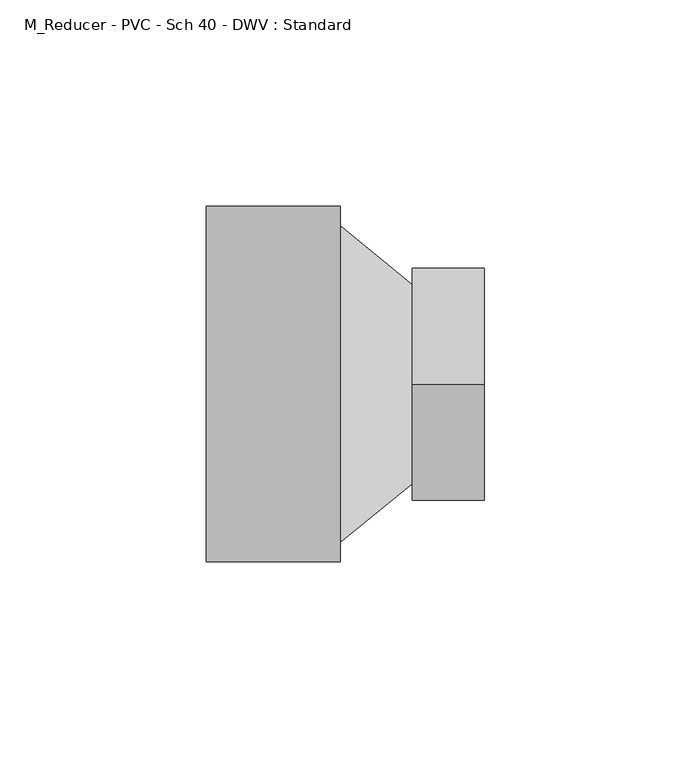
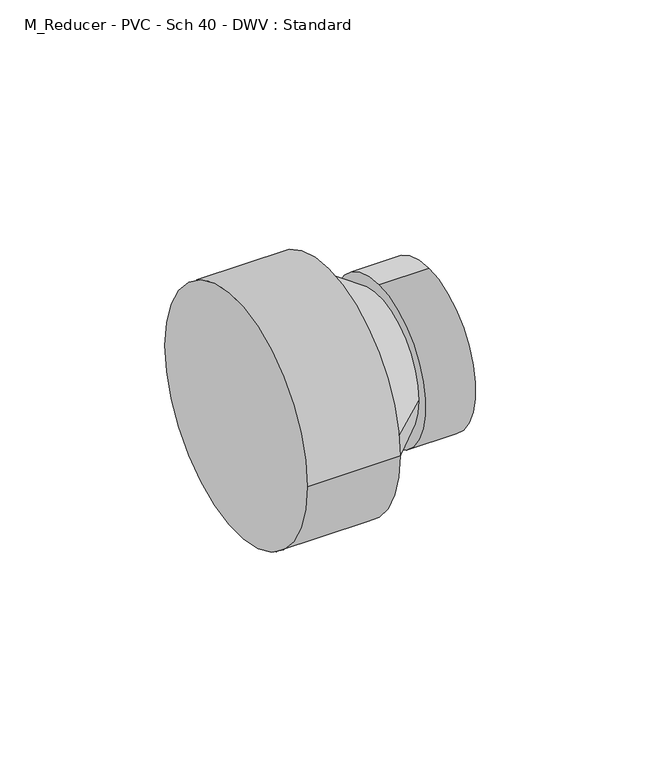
"""IFC4 building model written with IfcOpenShell, lengths in millimetres: pipe fitting geometry, M_Reducer - PVC - Sch 40 - DWV : Standard."""

import ifcopenshell
import ifcopenshell.guid

model = None  # the IFC model being written
_history = None  # IfcOwnerHistory: only IFC2X3 demands one
_inside = {}  # id of a spatial element -> (the spatial element, [elements in it])
_under = {}  # id of a project, library or spatial element -> (it, [spatial elements below it])
_declared = {}  # id of a project -> (the project, [libraries it declares])
_typed = {}  # id of a type object -> (the type object, [elements of that type])
_made_of = {}  # id of a material, layer set ... -> (it, [elements and type objects made of it])


def new_model(schema):
    """Start an empty IFC model of exactly this schema.

    Asked for "IFC4X3", IfcOpenShell would pick the latest addendum, in which some entities
    have other attributes; the version numbers below select the first issue.
    IFC2X3 requires an IfcOwnerHistory on every rooted entity: one is made here for all.
    """
    global model, _history
    if schema == "IFC4X3":
        model = ifcopenshell.file(schema_version=(4, 3, 0, 0))
    else:
        model = ifcopenshell.file(schema=schema)
    _inside.clear()
    _under.clear()
    _declared.clear()
    _typed.clear()
    _made_of.clear()
    _history = None
    if model.schema == "IFC2X3":
        org = make("IfcOrganization", Name="unknown")
        user = make(
            "IfcPersonAndOrganization",
            ThePerson=make("IfcPerson", FamilyName="unknown"),
            TheOrganization=org,
        )
        app = make(
            "IfcApplication",
            ApplicationDeveloper=org,
            Version="unknown",
            ApplicationFullName="unknown",
            ApplicationIdentifier="unknown",
        )
        _history = make(
            "IfcOwnerHistory",
            OwningUser=user,
            OwningApplication=app,
            ChangeAction="ADDED",
            CreationDate=0,
        )
    return model


def make(cls, **values):
    """One entity of the class cls with the attributes given. An attribute that is None is left unset."""
    return model.create_entity(
        cls, **{name: value for name, value in values.items() if value is not None}
    )


def rooted(cls, **values):
    """An entity with a GlobalId (a new one), such as an element, a storey or a relation."""
    return make(cls, GlobalId=ifcopenshell.guid.new(), OwnerHistory=_history, **values)


def si_unit(unit_type, name, prefix=None):
    """IfcSIUnit, for example si_unit("LENGTHUNIT", "METRE", prefix="MILLI")."""
    return make("IfcSIUnit", UnitType=unit_type, Prefix=prefix, Name=name)


def assignment(units):
    """IfcUnitAssignment: the units of a project."""
    return None if units is None else make("IfcUnitAssignment", Units=units)


def point(xyz):
    """IfcCartesianPoint."""
    return None if xyz is None else make("IfcCartesianPoint", Coordinates=xyz)


def direction(xyz):
    """IfcDirection."""
    return None if xyz is None else make("IfcDirection", DirectionRatios=xyz)


def frame(location, z_axis=None, x_axis=None):
    """IfcAxis2Placement3D, a coordinate frame: its origin and axes. An axis left out is left unset."""
    return make(
        "IfcAxis2Placement3D",
        Location=point(location),
        Axis=direction(z_axis),
        RefDirection=direction(x_axis),
    )


def origin():
    """The frame at (0, 0, 0) with its axes left unset."""
    return frame((0.0, 0.0, 0.0))


def place(relative_to, where):
    """IfcLocalPlacement: puts the frame where relative to a parent placement (None: the world)."""
    return make(
        "IfcLocalPlacement", PlacementRelTo=relative_to, RelativePlacement=where
    )


def context(
    kind, dimensions, precision=None, world=None, true_north=None, identifier=None
):
    """IfcGeometricRepresentationContext, for example the 3D "Model" context."""
    return make(
        "IfcGeometricRepresentationContext",
        ContextIdentifier=identifier,
        ContextType=kind,
        CoordinateSpaceDimension=dimensions,
        Precision=precision,
        WorldCoordinateSystem=world,
        TrueNorth=true_north,
    )


def project(units=None, contexts=None):
    """IfcProject with its units and contexts."""
    return rooted(
        "IfcProject",
        Name="project",
        RepresentationContexts=contexts,
        UnitsInContext=assignment(units),
    )


def spatial(cls, under=None, at=None, **own):
    """A site, building, storey or space (cls), placed at a placement, below another one or the project."""
    s = rooted(cls, ObjectPlacement=at, **own)
    if under is not None:
        _under.setdefault(under.id(), (under, []))[1].append(s)
    return s


def circle_curve(where, radius):
    """IfcCircle in the frame where."""
    return make("IfcCircle", Position=where, Radius=radius)


def shape(context_of_items, identifier, shape_type, items):
    """IfcShapeRepresentation: the items that make up one representation, for example the "Body"."""
    return make(
        "IfcShapeRepresentation",
        ContextOfItems=context_of_items,
        RepresentationIdentifier=identifier,
        RepresentationType=shape_type,
        Items=items,
    )


def source(mapping_origin, context_of_items, identifier, shape_type, items):
    """IfcRepresentationMap: a shape defined once, which mapped items show again and again."""
    return make(
        "IfcRepresentationMap",
        MappingOrigin=mapping_origin,
        MappedRepresentation=shape(context_of_items, identifier, shape_type, items),
    )


def transform(
    local_origin,
    x_axis=None,
    y_axis=None,
    z_axis=None,
    scale=None,
    scale2=None,
    scale3=None,
    uniform=True,
):
    """IfcCartesianTransformationOperator3D, or its non-uniform kind. x_axis, y_axis, z_axis: its Axis1, 2, 3."""
    if uniform:
        return make(
            "IfcCartesianTransformationOperator3D",
            Axis1=direction(x_axis),
            Axis2=direction(y_axis),
            LocalOrigin=point(local_origin),
            Scale=scale,
            Axis3=direction(z_axis),
        )
    return make(
        "IfcCartesianTransformationOperator3DnonUniform",
        Axis1=direction(x_axis),
        Axis2=direction(y_axis),
        LocalOrigin=point(local_origin),
        Scale=scale,
        Axis3=direction(z_axis),
        Scale2=scale2,
        Scale3=scale3,
    )


def mapped(mapping_source, mapping_target):
    """IfcMappedItem: shows the shape of a source again, moved by a transform."""
    return make(
        "IfcMappedItem", MappingSource=mapping_source, MappingTarget=mapping_target
    )


def made_of(thing, what):
    """Note that an element or type object is made of a material, layer set ...; save() writes the relation."""
    if what is not None:
        _made_of.setdefault(what.id(), (what, []))[1].append(thing)
    return thing


def element(
    cls,
    number,
    at=None,
    inside=None,
    cuts=None,
    type_object=None,
    material=None,
    context=None,
    identifier="Body",
    shape_type=None,
    held_by="IfcProductDefinitionShape",
    body=None,
    shapes=None,
    **own,
):
    """One element of the class cls, such as IfcWall. Its Tag is "e" and its number.

    at: its placement. inside: the storey or other place that contains it. cuts: it is an
    opening in that element (IfcRelVoidsElement). A single representation is given by context,
    identifier, shape_type and body (its items); several are given by shapes. held_by: the class
    of the entity that holds the representations. save() writes the other relations.
    """
    e = rooted(cls, Tag="e%d" % number, ObjectPlacement=at, **own)
    if body is not None:
        shapes = [shape(context, identifier, shape_type, body)]
    if shapes is not None:
        e.Representation = make(held_by, Representations=shapes)
    if inside is not None:
        _inside.setdefault(inside.id(), (inside, []))[1].append(e)
    if cuts is not None:
        rooted(
            "IfcRelVoidsElement", RelatingBuildingElement=cuts, RelatedOpeningElement=e
        )
    if type_object is not None:
        _typed.setdefault(type_object.id(), (type_object, []))[1].append(e)
    return made_of(e, material)


def aggregate(whole, parts):
    """IfcRelAggregates: a whole, such as a stair, and the parts it consists of."""
    return rooted("IfcRelAggregates", RelatingObject=whole, RelatedObjects=parts)


def save(model, path):
    """Write the relations noted so far, then the file.

    IfcRelAggregates (storeys below a building ...), IfcRelContainedInSpatialStructure (elements
    in a storey), IfcRelDefinesByType, IfcRelAssociatesMaterial and IfcRelDeclares: one each for
    every whole, place, type object, material and project.
    """
    for whole, parts in _under.values():
        aggregate(whole, parts)
    for where, things in _inside.values():
        rooted(
            "IfcRelContainedInSpatialStructure",
            RelatedElements=things,
            RelatingStructure=where,
        )
    for kind, things in _typed.values():
        rooted("IfcRelDefinesByType", RelatedObjects=things, RelatingType=kind)
    for what, things in _made_of.values():
        rooted("IfcRelAssociatesMaterial", RelatedObjects=things, RelatingMaterial=what)
    for by, libraries in _declared.values():
        rooted("IfcRelDeclares", RelatingContext=by, RelatedDefinitions=libraries)
    model.write(path)


def plane_surface(at):
    """IfcPlane: the flat surface through the origin of the frame at, square to its z axis."""
    return make("IfcPlane", Position=at)


def cylinder_surface(at, radius):
    """IfcCylindricalSurface: all points at the distance radius from the z axis of the frame at."""
    return make("IfcCylindricalSurface", Position=at, Radius=radius)


def spline_surface(u_degree, v_degree, points, u_multiplicities, v_multiplicities, u_knots, v_knots, weights=None):
    """IfcBSplineSurfaceWithKnots; with weights, IfcRationalBSplineSurfaceWithKnots. points: one row for each step in u."""
    own = dict(
        UDegree=u_degree,
        VDegree=v_degree,
        ControlPointsList=[[point(p) for p in row] for row in points],
        SurfaceForm="UNSPECIFIED",
        UClosed=False,
        VClosed=False,
        SelfIntersect=False,
        UMultiplicities=u_multiplicities,
        VMultiplicities=v_multiplicities,
        UKnots=u_knots,
        VKnots=v_knots,
        KnotSpec="UNSPECIFIED",
    )
    if weights is None:
        return make("IfcBSplineSurfaceWithKnots", **own)
    return make("IfcRationalBSplineSurfaceWithKnots", WeightsData=weights, **own)


def advanced_brep(points, edges, surfaces, faces):
    """IfcAdvancedBrep: a solid bounded by faces that lie on surfaces and meet in shared edges.

    An edge is (start, end): straight between two places in points (the first is 0);
    or (start, end, curve); or (start, end, curve, False) where it runs against its curve.
    A face is (place in surfaces, loops), or (place, loops, False) where it looks against
    its surface's normal. A loop lists edges by number (the first is 1), with a minus sign
    where the edge is run from its end to its start. The first loop is the outer one.
    """
    corners = [point(p) for p in points]
    vertices = [make("IfcVertexPoint", VertexGeometry=c) for c in corners]
    made = []
    for start, end, *more in edges:
        made.append(
            make(
                "IfcEdgeCurve",
                EdgeStart=vertices[start],
                EdgeEnd=vertices[end],
                EdgeGeometry=more[0] if more else make("IfcPolyline", Points=[corners[start], corners[end]]),
                SameSense=more[1] if len(more) > 1 else True,
            )
        )
    hull = []
    for where, loops, *sense in faces:
        bounds = []
        for j, loop in enumerate(loops):
            ring = [make("IfcOrientedEdge", EdgeElement=made[abs(k) - 1], Orientation=k > 0) for k in loop]
            bounds.append(
                make(
                    "IfcFaceOuterBound" if j == 0 else "IfcFaceBound",
                    Bound=make("IfcEdgeLoop", EdgeList=ring),
                    Orientation=True,
                )
            )
        hull.append(make("IfcAdvancedFace", Bounds=bounds, FaceSurface=surfaces[where], SameSense=sense[0] if sense else True))
    return make("IfcAdvancedBrep", Outer=make("IfcClosedShell", CfsFaces=hull))


def m_reducer_pvc_sch_40_dwv_standard_daff2b06(model_context):
    return source(origin(), model_context, "Body", "AdvancedBrep", [
        advanced_brep(
        [(0.0, -43.0871094, 0.0), (0.0, 43.0871094, 0.0), (32.5, -43.0871094, 0.0), (32.5, 43.0871094, 0.0), (32.5, 38.3640625, 0.0), (32.5, -38.3640625, 0.0), (49.9962938, 24.1185451, 2.7877845), (49.9962938, -24.1414549, 2.7877845), (49.9962938, -0.0114549, 31.0706845), (49.9962938, -0.0114549, -25.4951155), (67.4460938, -0.0114549, 31.0706845), (67.4460938, -0.0114549, -25.4951155)],
        [
            (0, 1, circle_curve(frame((0.0, 0.0, 0.0), z_axis=(-1.0, 0.0, 0.0), x_axis=(0.0, 1.0, 0.0)), 43.0871094)),
            (1, 0, circle_curve(frame((0.0, 0.0, 0.0), z_axis=(-1.0, 0.0, 0.0), x_axis=(0.0, 1.0, 0.0)), 43.0871094)),
            (2, 3, circle_curve(frame((32.5, 0.0, 0.0), z_axis=(1.0, 0.0, 0.0), x_axis=(0.0, 1.0, 0.0)), 43.0871094)),
            (3, 2, circle_curve(frame((32.5, 0.0, 0.0), z_axis=(1.0, 0.0, 0.0), x_axis=(0.0, 1.0, 0.0)), 43.0871094)),
            (4, 5, circle_curve(frame((32.5, 0.0, 0.0), z_axis=(-1.0, 0.0, 0.0), x_axis=(0.0, 1.0, 0.0)), 38.3640625)),
            (5, 4, circle_curve(frame((32.5, 0.0, 0.0), z_axis=(-1.0, 0.0, 0.0), x_axis=(0.0, 1.0, 0.0)), 38.3640625)),
            (0, 2),
            (3, 1),
            (4, 6),
            (6, 7, circle_curve(frame((49.9962938, -0.0114549, 2.7877845), z_axis=(-1.0, 0.0, 0.0), x_axis=(0.0, 1.0, 0.0)), 24.13)),
            (7, 5),
            (7, 6, circle_curve(frame((49.9962938, -0.0114549, 2.7877845), z_axis=(-1.0, 0.0, 0.0), x_axis=(0.0, 1.0, 0.0)), 24.13)),
            (8, 9, circle_curve(frame((49.9962938, -0.0114549, 2.7877845), z_axis=(-1.0, 0.0, 0.0), x_axis=(0.0, 0.0, -1.0)), 28.2829)),
            (9, 8, circle_curve(frame((49.9962938, -0.0114549, 2.7877845), z_axis=(-1.0, 0.0, 0.0), x_axis=(0.0, 0.0, -1.0)), 28.2829)),
            (10, 11, circle_curve(frame((67.4460938, -0.0114549, 2.7877845), z_axis=(1.0, 0.0, 0.0), x_axis=(0.0, 0.0, -1.0)), 28.2829)),
            (11, 10, circle_curve(frame((67.4460938, -0.0114549, 2.7877845), z_axis=(1.0, 0.0, 0.0), x_axis=(0.0, 0.0, -1.0)), 28.2829)),
            (8, 10),
            (11, 9),
        ],
        [
            plane_surface(frame((0.0, 0.0, 0.0), z_axis=(-1.0, 0.0, 0.0), x_axis=(0.0, 0.0, 1.0))),
            plane_surface(frame((32.5, 0.0, 0.0), z_axis=(1.0, 0.0, 0.0), x_axis=(0.0, 0.0, 1.0))),
            cylinder_surface(frame((0.0, 0.0, 0.0), z_axis=(-1.0, 0.0, 0.0), x_axis=(0.0, 1.0, 0.0)), 43.0871094),
            spline_surface(2, 1, [[(32.5, -38.3640625, 0.0), (49.9962938, -24.1414549, 2.7877845)], [(32.5, -38.3640625, -38.3640625), (49.9962938, -24.1414549, -21.3422155)], [(32.5, 0.0, -38.3640625), (49.9962938, -0.0114549, -21.3422155)], [(32.5, 38.3640625, -38.3640625), (49.9962938, 24.1185451, -21.3422155)], [(32.5, 38.3640625, 0.0), (49.9962938, 24.1185451, 2.7877845)]], [3, 2, 3], [2, 2], [0.0, 1.0, 2.0], [0.0, 1.0], weights=[[1.0, 1.0], [0.7071067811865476, 0.7071067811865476], [1.0, 1.0], [0.7071067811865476, 0.7071067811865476], [1.0, 1.0]]),
            spline_surface(2, 1, [[(32.5, 38.3640625, 0.0), (49.9962938, 24.1185451, 2.7877845)], [(32.5, 38.3640625, 38.3640625), (49.9962938, 24.1185451, 26.9177845)], [(32.5, 0.0, 38.3640625), (49.9962938, -0.0114549, 26.9177845)], [(32.5, -38.3640625, 38.3640625), (49.9962938, -24.1414549, 26.9177845)], [(32.5, -38.3640625, 0.0), (49.9962938, -24.1414549, 2.7877845)]], [3, 2, 3], [2, 2], [0.0, 1.0, 2.0], [0.0, 1.0], weights=[[1.0, 1.0], [0.7071067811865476, 0.7071067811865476], [1.0, 1.0], [0.7071067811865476, 0.7071067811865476], [1.0, 1.0]]),
            plane_surface(frame((49.9962938, -0.0114549, 2.7877845), z_axis=(-1.0, 0.0, 0.0), x_axis=(0.0, 1.0, 0.0))),
            plane_surface(frame((67.4460938, -0.0114549, 2.7877845), z_axis=(1.0, 0.0, 0.0), x_axis=(0.0, 1.0, 0.0))),
            cylinder_surface(frame((49.9962938, -0.0114549, 2.7877845), z_axis=(-1.0, 0.0, 0.0), x_axis=(0.0, 0.0, -1.0)), 28.2829),
        ],
        [
            (0, [[1, 2]]),
            (1, [[3, 4], [5, 6]]),
            (2, [[-1, 7, -4, 8]]),
            (2, [[-2, -8, -3, -7]]),
            (3, [[9, 10, 11, -5]]),
            (4, [[-9, -6, -11, 12]]),
            (5, [[13, 14], [-10, -12]]),
            (6, [[15, 16]]),
            (7, [[-13, 17, -16, 18]]),
            (7, [[-14, -18, -15, -17]]),
        ],
    ),
    ])


if __name__ == "__main__":
    model = new_model("IFC4")
    model_context = context("Model", 3, world=origin())
    ifc_project = project(units=[si_unit("LENGTHUNIT", "METRE", prefix="MILLI")], contexts=[model_context])
    site = spatial("IfcSite", under=ifc_project)
    building = spatial("IfcBuilding", under=site)
    placement = place(None, origin())
    m_reducer_pvc_sch_40_dwv_standard_shape = m_reducer_pvc_sch_40_dwv_standard_daff2b06(model_context)
    element("IfcPipeFitting", 1, ObjectType="M_Reducer - PVC - Sch 40 - DWV : Standard", at=placement, inside=building, context=model_context, shape_type="MappedRepresentation", body=[
        mapped(m_reducer_pvc_sch_40_dwv_standard_shape, transform((0.0, 0.0, 0.0), x_axis=(1.0, 0.0, 0.0), y_axis=(0.0, 1.0, 0.0), z_axis=(0.0, 0.0, 1.0))),
    ])
    save(model, "model.ifc")
